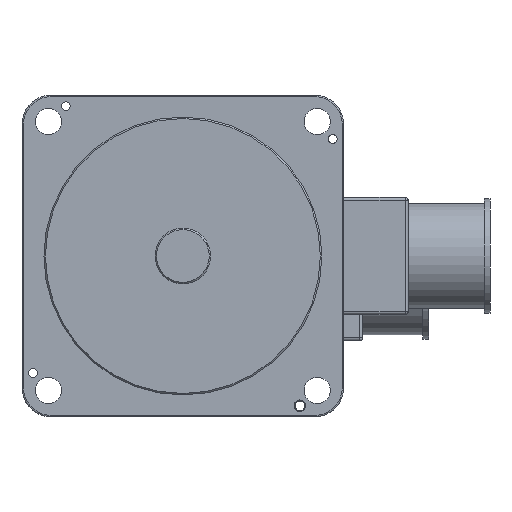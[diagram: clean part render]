
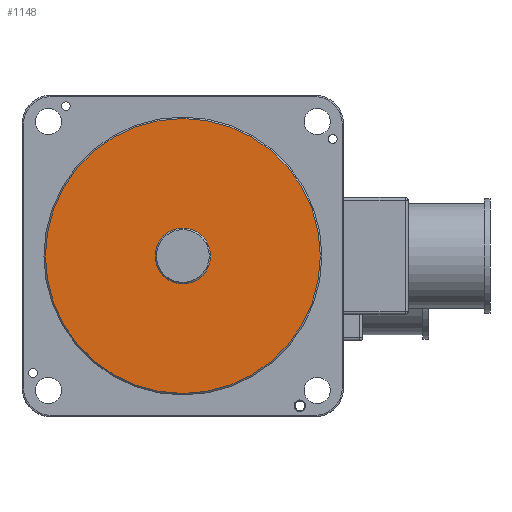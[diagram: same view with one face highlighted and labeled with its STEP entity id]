
A CAD part, left-side view. The second image highlights one B-rep face of the part: STEP entity #1148.
In plain terms, the highlighted planar face has unit normal (-1, 0, 0).
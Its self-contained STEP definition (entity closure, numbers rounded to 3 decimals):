
#143=PLANE('',#3838);
#215=FACE_BOUND('',#1583,.T.);
#216=FACE_BOUND('',#1584,.T.);
#522=CIRCLE('',#3830,9.5);
#526=CIRCLE('',#3837,47.);
#1148=ADVANCED_FACE('',(#215,#216),#143,.F.);
#1583=EDGE_LOOP('',(#2013));
#1584=EDGE_LOOP('',(#2014));
#2013=ORIENTED_EDGE('',*,*,#3377,.T.);
#2014=ORIENTED_EDGE('',*,*,#3373,.T.);
#3028=VERTEX_POINT('',#5669);
#3032=VERTEX_POINT('',#5680);
#3373=EDGE_CURVE('',#3028,#3028,#522,.T.);
#3377=EDGE_CURVE('',#3032,#3032,#526,.T.);
#3830=AXIS2_PLACEMENT_3D('',#5668,#4412,#4413);
#3837=AXIS2_PLACEMENT_3D('',#5679,#4426,#4427);
#3838=AXIS2_PLACEMENT_3D('',#5681,#4428,#4429);
#4412=DIRECTION('',(1.,0.,0.));
#4413=DIRECTION('',(0.,1.,0.));
#4426=DIRECTION('',(-1.,0.,0.));
#4427=DIRECTION('',(0.,0.,-1.));
#4428=DIRECTION('',(1.,0.,0.));
#4429=DIRECTION('',(0.,0.,-1.));
#5668=CARTESIAN_POINT('',(51.,0.,0.));
#5669=CARTESIAN_POINT('',(51.,9.5,0.));
#5679=CARTESIAN_POINT('',(51.,0.,0.));
#5680=CARTESIAN_POINT('',(51.,0.,-47.));
#5681=CARTESIAN_POINT('',(51.,0.,0.));
